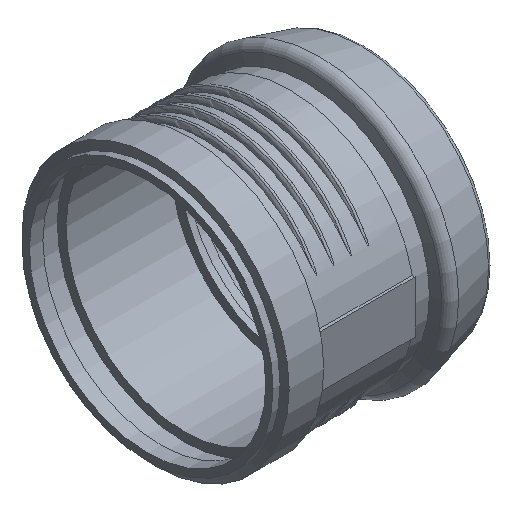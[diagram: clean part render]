
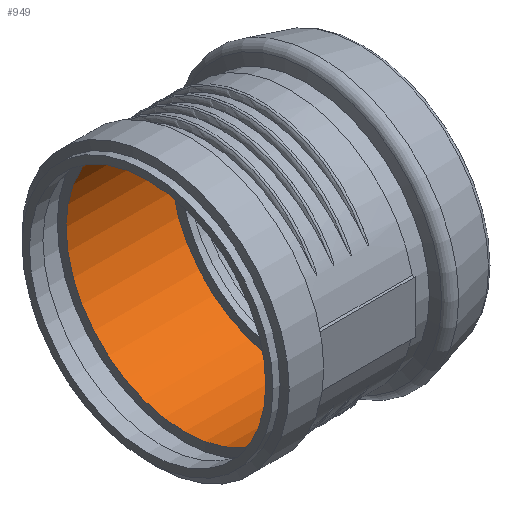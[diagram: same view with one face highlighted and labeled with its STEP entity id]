
A CAD part, isometric view. The second image highlights one B-rep face of the part: STEP entity #949.
In plain terms, the highlighted cylindrical face has radius 56.65 mm (diameter 113.3 mm), a full revolution.
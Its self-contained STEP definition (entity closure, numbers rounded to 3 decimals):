
#187=FACE_BOUND($,#309,.T.);
#221=FACE_OUTER_BOUND($,#308,.T.);
#308=EDGE_LOOP($,(#741));
#309=EDGE_LOOP($,(#742));
#375=CIRCLE($,#1040,56.65);
#376=CIRCLE($,#1041,56.65);
#485=VERTEX_POINT($,#2319);
#486=VERTEX_POINT($,#2321);
#587=EDGE_CURVE($,#485,#485,#375,.T.);
#588=EDGE_CURVE($,#486,#486,#376,.T.);
#741=ORIENTED_EDGE($,*,*,#587,.F.);
#742=ORIENTED_EDGE($,*,*,#588,.T.);
#854=CYLINDRICAL_SURFACE($,#1039,56.65);
#949=ADVANCED_FACE($,(#221,#187),#854,.F.);
#1039=AXIS2_PLACEMENT_3D($,#2318,#1219,#1220);
#1040=AXIS2_PLACEMENT_3D($,#2320,#1221,#1222);
#1041=AXIS2_PLACEMENT_3D($,#2322,#1223,#1224);
#1219=DIRECTION('center_axis',(1.,0.,0.));
#1220=DIRECTION('ref_axis',(0.,1.,0.));
#1221=DIRECTION('center_axis',(1.,0.,0.));
#1222=DIRECTION('ref_axis',(0.,1.,0.));
#1223=DIRECTION('center_axis',(1.,0.,0.));
#1224=DIRECTION('ref_axis',(0.,1.,0.));
#2318=CARTESIAN_POINT('Origin',(25.26,0.,0.));
#2319=CARTESIAN_POINT('',(0.,56.65,0.));
#2320=CARTESIAN_POINT('Origin',(0.,0.,0.));
#2321=CARTESIAN_POINT('',(50.519,56.65,0.));
#2322=CARTESIAN_POINT('Origin',(50.519,0.,0.));
